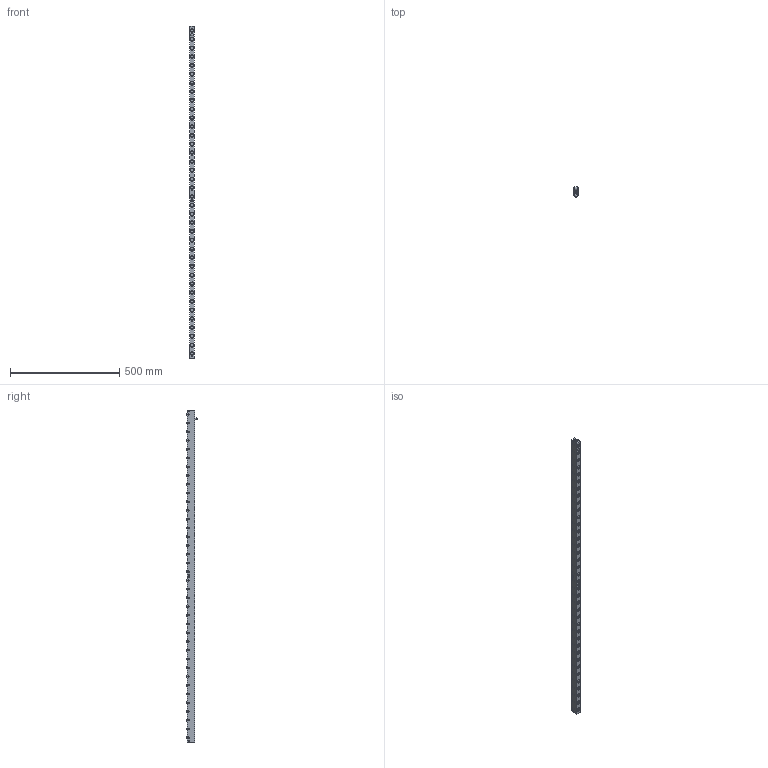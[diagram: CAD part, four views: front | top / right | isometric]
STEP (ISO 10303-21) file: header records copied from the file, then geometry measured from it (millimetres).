
FILE_DESCRIPTION(/* description */ (''),/* implementation_level */ '2;1');
FILE_NAME(/* name */ 'S:\EASCN Vault\Designs\Standard Part\DIE LIFTERS\EHR\EHR- 3D step\EHR22 - 3D step complete serie\EHR22-38.stp',/* time_stamp */ '2019-07-31T10:49:16+08:00',/* author */ ('yue.yang'),/* organization */ (''),/* preprocessor_version */ 'ST-DEVELOPER v17',/* originating_system */ 'Autodesk Inventor 2019',/* authorisation */ '');
FILE_SCHEMA (('AUTOMOTIVE_DESIGN { 1 0 10303 214 3 1 1 }'));
Length unit declared in the file: millimetre
Products named in the file (1): EHR22-38_Shrinkwrap_1
Bounding box: 21.8 x 48.05 x 1520 mm (x, y, z)
Volume: 826965.4 mm3; surface area: 319312.4 mm2
Topology: 1 solids, 1 shells, 1200 faces, 3220 edges, 2175 vertices
Faces by surface type: cylinder 526, plane 280, cone 203, torus 114, sphere 77
Full cylindrical faces by diameter (mm): 2.459 x8, 4 x16, 5 x152, 6 x40, 10 x6, 12.5 x76, 16 x76
Entity records: 43706 total; most frequent: CARTESIAN_POINT 11451, DIRECTION 6931, ORIENTED_EDGE 6346, EDGE_CURVE 3173, AXIS2_PLACEMENT_3D 3051, VERTEX_POINT 2175, CIRCLE 1850, EDGE_LOOP 1586
